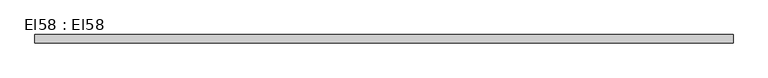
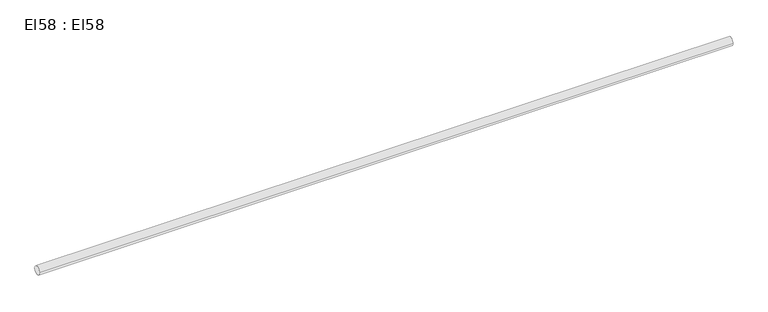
"""IFC4 building model written with IfcOpenShell, lengths in millimetres: cable carrier segment geometry, El58 : El58."""

from ifc_helpers import new_model, si_unit, point, frame, frame_2d, origin, place, context, project, spatial, circle_curve, trimmed, segment, composite_curve, outline, extrude, source, transform, mapped, element, save


def el58_el58_424742f9(model_context):
    return source(origin(), model_context, "Body", "SweptSolid", [
        extrude(outline(composite_curve([segment(trimmed(circle_curve(frame_2d((16524.6, 2950.0)), 9.5), [point((16515.1, 2950.0))], [point((16534.1, 2950.0))], False, "CARTESIAN"), True, "CONTINUOUS"), segment(trimmed(circle_curve(frame_2d((16524.6, 2950.0)), 9.5), [point((16534.1, 2950.0))], [point((16515.1, 2950.0))], False, "CARTESIAN"), True, "CONTINUOUS")], self_intersect=False)), frame((13826.213, 0.0, 0.0), z_axis=(1.0, 0.0, 0.0), x_axis=(0.0, 1.0, 0.0)), (0.0, 0.0, 1.0), 1550.77),
    ])


if __name__ == "__main__":
    model = new_model("IFC4")
    model_context = context("Model", 3, world=origin())
    ifc_project = project(units=[si_unit("LENGTHUNIT", "METRE", prefix="MILLI")], contexts=[model_context])
    site = spatial("IfcSite", under=ifc_project)
    building = spatial("IfcBuilding", under=site)
    placement = place(None, origin())
    el58_el58_shape = el58_el58_424742f9(model_context)
    element("IfcCableCarrierSegment", 1, ObjectType="El58 : El58", at=placement, inside=building, context=model_context, shape_type="MappedRepresentation", body=[
        mapped(el58_el58_shape, transform((0.0, 0.0, 0.0), x_axis=(1.0, 0.0, 0.0), y_axis=(0.0, 1.0, 0.0), z_axis=(0.0, 0.0, 1.0))),
    ])
    save(model, "model.ifc")
